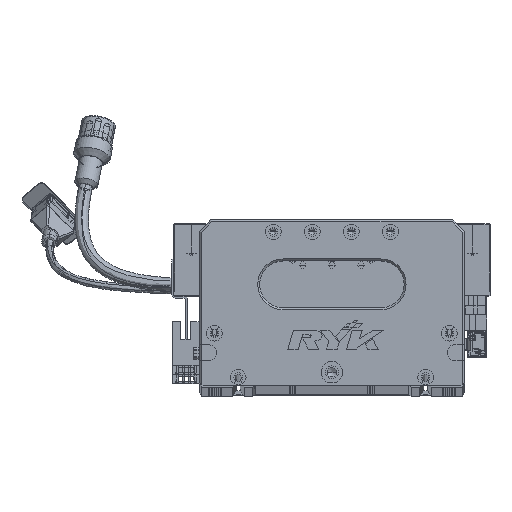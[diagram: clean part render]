
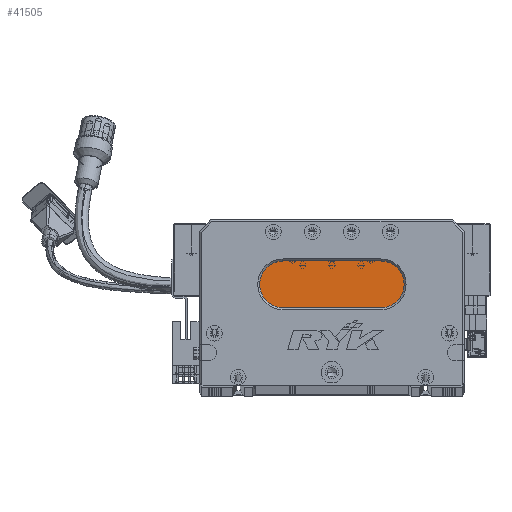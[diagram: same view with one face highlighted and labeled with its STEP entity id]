
A CAD part, top view. The second image highlights one B-rep face of the part: STEP entity #41505.
In plain terms, the highlighted planar face has unit normal (0, 0, 1) as drawn and (0, 0, -1) by its records, which use the part's own axes.
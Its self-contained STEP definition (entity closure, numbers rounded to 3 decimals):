
#288 = VECTOR ( 'NONE', #14867, 1000. ) ;
#372 = AXIS2_PLACEMENT_3D ( 'NONE', #21371, #104246, #42197 ) ;
#6477 = DIRECTION ( 'NONE',  ( -1., 0., 0. ) ) ;
#9283 = CIRCLE ( 'NONE', #94755, 12. ) ;
#12038 = LINE ( 'NONE', #97634, #97941 ) ;
#12621 = VERTEX_POINT ( 'NONE', #82078 ) ;
#14867 = DIRECTION ( 'NONE',  ( -1., 0., 0. ) ) ;
#21371 = CARTESIAN_POINT ( 'NONE',  ( 93., 52., 13. ) ) ;
#24820 = FACE_OUTER_BOUND ( 'NONE', #122121, .T. ) ;
#30524 = ORIENTED_EDGE ( 'NONE', *, *, #55346, .T. ) ;
#31929 = ORIENTED_EDGE ( 'NONE', *, *, #95033, .T. ) ;
#41505 = ADVANCED_FACE ( 'NONE', ( #24820 ), #131747, .T. ) ;
#42197 = DIRECTION ( 'NONE',  ( -1., 0., 0. ) ) ;
#46268 = EDGE_CURVE ( 'NONE', #114758, #91673, #133774, .T. ) ;
#46871 = DIRECTION ( 'NONE',  ( 1., 0., 0. ) ) ;
#47338 = LINE ( 'NONE', #67416, #288 ) ;
#49637 = VERTEX_POINT ( 'NONE', #100631 ) ;
#51233 = CARTESIAN_POINT ( 'NONE',  ( 43., 40., 13. ) ) ;
#55346 = EDGE_CURVE ( 'NONE', #91673, #95240, #47338, .T. ) ;
#56293 = DIRECTION ( 'NONE',  ( -1., 0., 0. ) ) ;
#58374 = ORIENTED_EDGE ( 'NONE', *, *, #70642, .T. ) ;
#58454 = ORIENTED_EDGE ( 'NONE', *, *, #46268, .T. ) ;
#60174 = CARTESIAN_POINT ( 'NONE',  ( 93., 52., 13. ) ) ;
#64277 = EDGE_CURVE ( 'NONE', #12621, #114758, #12038, .T. ) ;
#66590 = ORIENTED_EDGE ( 'NONE', *, *, #64277, .T. ) ;
#67416 = CARTESIAN_POINT ( 'NONE',  ( 93., 40., 13. ) ) ;
#68543 = CARTESIAN_POINT ( 'NONE',  ( 43., 52., 13. ) ) ;
#70642 = EDGE_CURVE ( 'NONE', #95240, #49637, #109024, .T. ) ;
#71478 = DIRECTION ( 'NONE',  ( 0., 0., -1. ) ) ;
#82078 = CARTESIAN_POINT ( 'NONE',  ( 43., 64., 13. ) ) ;
#82300 = AXIS2_PLACEMENT_3D ( 'NONE', #68543, #90298, #6477 ) ;
#86982 = AXIS2_PLACEMENT_3D ( 'NONE', #60174, #71478, #123149 ) ;
#89764 = CARTESIAN_POINT ( 'NONE',  ( 93., 40., 13. ) ) ;
#90298 = DIRECTION ( 'NONE',  ( 0., 0., -1. ) ) ;
#91673 = VERTEX_POINT ( 'NONE', #89764 ) ;
#94755 = AXIS2_PLACEMENT_3D ( 'NONE', #118346, #108367, #56293 ) ;
#95033 = EDGE_CURVE ( 'NONE', #49637, #12621, #9283, .T. ) ;
#95240 = VERTEX_POINT ( 'NONE', #51233 ) ;
#97634 = CARTESIAN_POINT ( 'NONE',  ( 93., 64., 13. ) ) ;
#97941 = VECTOR ( 'NONE', #46871, 1000. ) ;
#100631 = CARTESIAN_POINT ( 'NONE',  ( 31., 52., 13. ) ) ;
#104246 = DIRECTION ( 'NONE',  ( 0., 0., -1. ) ) ;
#108367 = DIRECTION ( 'NONE',  ( 0., 0., -1. ) ) ;
#109024 = CIRCLE ( 'NONE', #82300, 12. ) ;
#114758 = VERTEX_POINT ( 'NONE', #134477 ) ;
#118346 = CARTESIAN_POINT ( 'NONE',  ( 43., 52., 13. ) ) ;
#122121 = EDGE_LOOP ( 'NONE', ( #58454, #30524, #58374, #31929, #66590 ) ) ;
#123149 = DIRECTION ( 'NONE',  ( -1., 0., 0. ) ) ;
#131747 = PLANE ( 'NONE',  #86982 ) ;
#133774 = CIRCLE ( 'NONE', #372, 12. ) ;
#134477 = CARTESIAN_POINT ( 'NONE',  ( 93., 64., 13. ) ) ;
